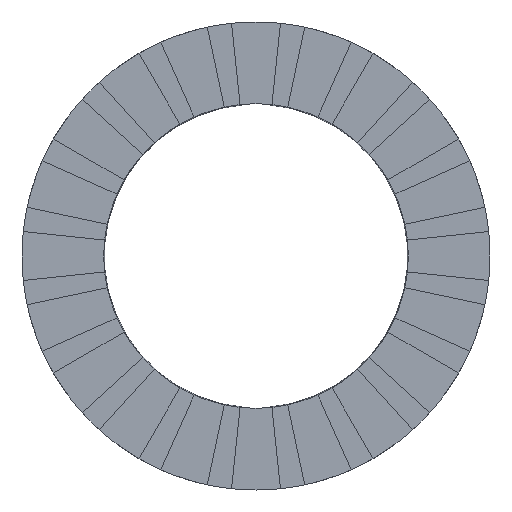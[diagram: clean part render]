
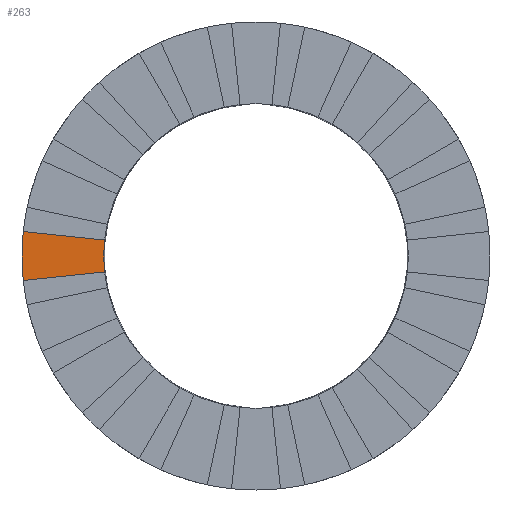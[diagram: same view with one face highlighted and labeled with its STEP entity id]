
A CAD part, front view. The second image highlights one B-rep face of the part: STEP entity #263.
In plain terms, the highlighted planar face has unit normal (0, -1, 0).
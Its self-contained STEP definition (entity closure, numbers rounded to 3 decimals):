
#179 = VERTEX_POINT ( 'NONE', #4875 ) ;
#263 = ADVANCED_FACE ( 'NONE', ( #3694 ), #5316, .F. ) ;
#560 = DIRECTION ( 'NONE',  ( 0., 0., 1. ) ) ;
#781 = DIRECTION ( 'NONE',  ( 0., 1., 0. ) ) ;
#908 = CARTESIAN_POINT ( 'NONE',  ( 0., 0., 0. ) ) ;
#1018 = AXIS2_PLACEMENT_3D ( 'NONE', #2075, #2109, #2129 ) ;
#1045 = CARTESIAN_POINT ( 'NONE',  ( -3.232, 0., 0.34 ) ) ;
#1183 = CARTESIAN_POINT ( 'NONE',  ( -4.973, 0., -0.523 ) ) ;
#1230 = CIRCLE ( 'NONE', #2352, 5. ) ;
#1392 = CARTESIAN_POINT ( 'NONE',  ( 0., 0., 0. ) ) ;
#1455 = ORIENTED_EDGE ( 'NONE', *, *, #4011, .F. ) ;
#1793 = LINE ( 'NONE', #4616, #3931 ) ;
#2075 = CARTESIAN_POINT ( 'NONE',  ( 0., 0., 0. ) ) ;
#2109 = DIRECTION ( 'NONE',  ( 0., 1., 0. ) ) ;
#2129 = DIRECTION ( 'NONE',  ( 0., 0., 1. ) ) ;
#2352 = AXIS2_PLACEMENT_3D ( 'NONE', #908, #781, #560 ) ;
#2609 = CIRCLE ( 'NONE', #1018, 3.25 ) ;
#2909 = DIRECTION ( 'NONE',  ( -0.995, 0., -0.105 ) ) ;
#3029 = LINE ( 'NONE', #3143, #5240 ) ;
#3069 = VERTEX_POINT ( 'NONE', #1183 ) ;
#3102 = ORIENTED_EDGE ( 'NONE', *, *, #3199, .F. ) ;
#3143 = CARTESIAN_POINT ( 'NONE',  ( -3.232, 0., -0.34 ) ) ;
#3199 = EDGE_CURVE ( 'NONE', #179, #3583, #1793, .T. ) ;
#3393 = EDGE_LOOP ( 'NONE', ( #1455, #3870, #4852, #3102 ) ) ;
#3470 = EDGE_CURVE ( 'NONE', #3927, #3069, #3029, .T. ) ;
#3583 = VERTEX_POINT ( 'NONE', #1045 ) ;
#3694 = FACE_OUTER_BOUND ( 'NONE', #3393, .T. ) ;
#3706 = DIRECTION ( 'NONE',  ( 0.995, 0., -0.105 ) ) ;
#3870 = ORIENTED_EDGE ( 'NONE', *, *, #3470, .F. ) ;
#3927 = VERTEX_POINT ( 'NONE', #5055 ) ;
#3931 = VECTOR ( 'NONE', #3706, 1000. ) ;
#4011 = EDGE_CURVE ( 'NONE', #3069, #179, #1230, .T. ) ;
#4616 = CARTESIAN_POINT ( 'NONE',  ( -3.232, 0., 0.34 ) ) ;
#4741 = EDGE_CURVE ( 'NONE', #3927, #3583, #2609, .T. ) ;
#4816 = AXIS2_PLACEMENT_3D ( 'NONE', #1392, #5409, #5396 ) ;
#4852 = ORIENTED_EDGE ( 'NONE', *, *, #4741, .T. ) ;
#4875 = CARTESIAN_POINT ( 'NONE',  ( -4.973, 0., 0.523 ) ) ;
#5055 = CARTESIAN_POINT ( 'NONE',  ( -3.232, 0., -0.34 ) ) ;
#5240 = VECTOR ( 'NONE', #2909, 1000. ) ;
#5316 = PLANE ( 'NONE',  #4816 ) ;
#5396 = DIRECTION ( 'NONE',  ( 0., 0., 1. ) ) ;
#5409 = DIRECTION ( 'NONE',  ( 0., 1., 0. ) ) ;
